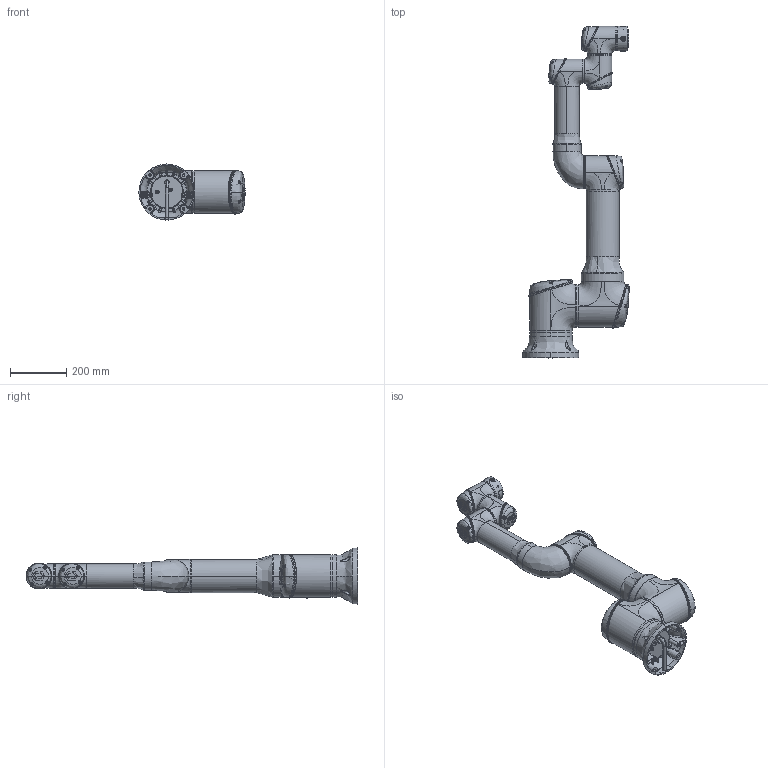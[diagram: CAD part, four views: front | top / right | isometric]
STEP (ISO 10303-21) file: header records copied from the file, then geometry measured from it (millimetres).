
FILE_DESCRIPTION (( 'STEP AP214' ), '1' );
FILE_NAME ('EC_掛极EC616_V1.1.STEP', '2023-05-17T05:58:16', ( '' ), ( '' ), 'SwSTEP 2.0', 'SolidWorks 2017', '' );
FILE_SCHEMA (( 'AUTOMOTIVE_DESIGN' ));
Length unit declared in the file: millimetre
Products named in the file (15): EC616-Flange; Link2A_Link2B_J4; EC616-J2_Link1_J3; EC616-J5; EC616-Base; EC616-J6; EC616-J1; EC_掛极EC616_V1.1
Assembly tree (7 placements, depth 2):
  EC616-Flange
  Link2A_Link2B_J4
  EC616-Base
  EC616-J2_Link1_J3
  EC616-J1
Bounding box: 379.09 x 1184 x 199.8 mm (x, y, z)
Volume: 19269593.9 mm3; surface area: 1107020.5 mm2
Topology: 19 solids, 52 shells, 3281 faces, 7636 edges, 4602 vertices
Faces by surface type: bspline 1567, plane 907, cylinder 547, cone 255, torus 5
Entity records: 264886 total; most frequent: CARTESIAN_POINT 181358, ORIENTED_EDGE 15128, DIRECTION 9904, EDGE_CURVE 7564, VERTEX_POINT 4602, AXIS2_PLACEMENT_3D 3968, EDGE_LOOP 3516, ADVANCED_FACE 3281
